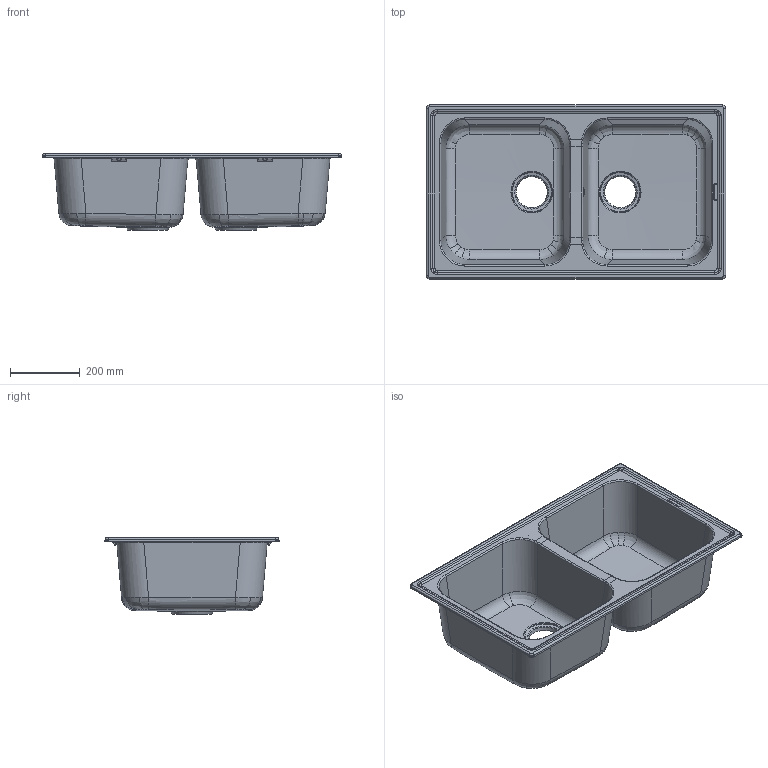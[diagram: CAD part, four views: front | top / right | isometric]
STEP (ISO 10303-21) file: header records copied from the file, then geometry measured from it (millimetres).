
FILE_DESCRIPTION((''),'1');
FILE_NAME('C:/Users/linop/Desktop/LZ862A2.stp','2018-03-08T14:00:06',(''),(''),'Spatial Interop R20 SP1','Kubotek KeyCreator V9.0.3 (16864)',' ');
FILE_SCHEMA(('CONFIG_CONTROL_DESIGN'));
Length unit declared in the file: millimetre
Products named in the file (1): 1
Bounding box: 860 x 500 x 220.6 mm (x, y, z)
Volume: 7164084.2 mm3; surface area: 1809082.5 mm2
Topology: 1 solids, 1 shells, 543 faces, 1541 edges, 970 vertices
Faces by surface type: bspline 291, cylinder 137, plane 61, sphere 24, torus 24, cone 6
Full cylindrical faces by diameter (mm): 30 x1, 31 x2, 35 x2
Entity records: 26891 total; most frequent: CARTESIAN_POINT 16380, ORIENTED_EDGE 2958, EDGE_CURVE 1479, DIRECTION 1143, VERTEX_POINT 967, B_SPLINE_CURVE_WITH_KNOTS 788, EDGE_LOOP 578, ADVANCED_FACE 543
